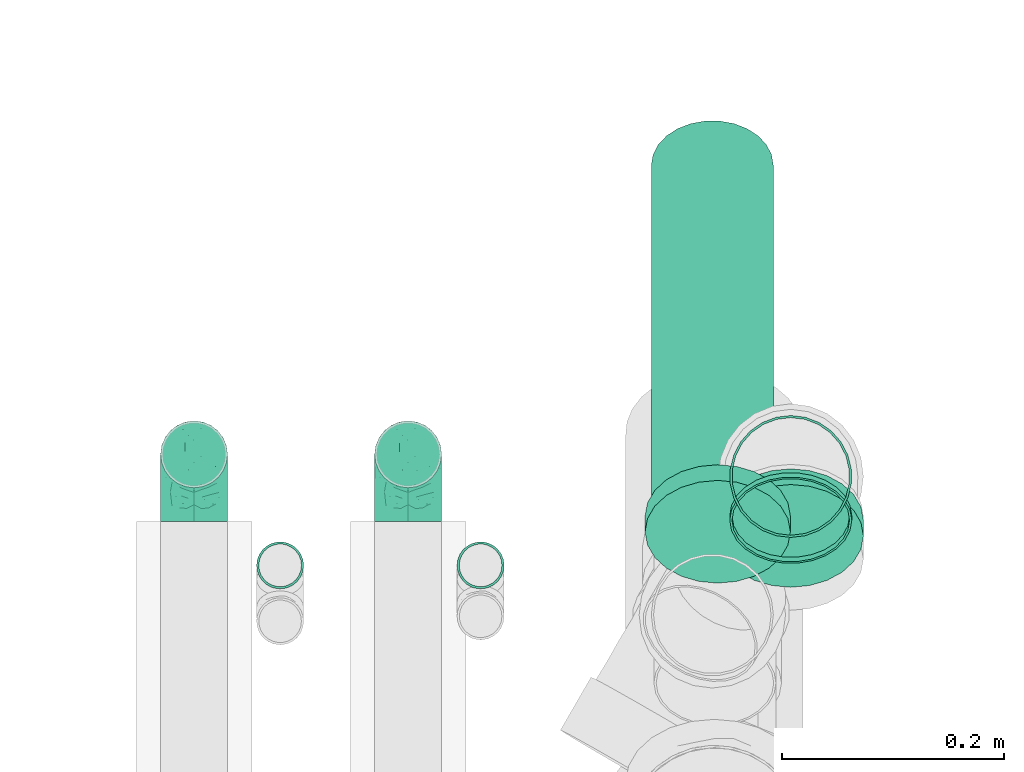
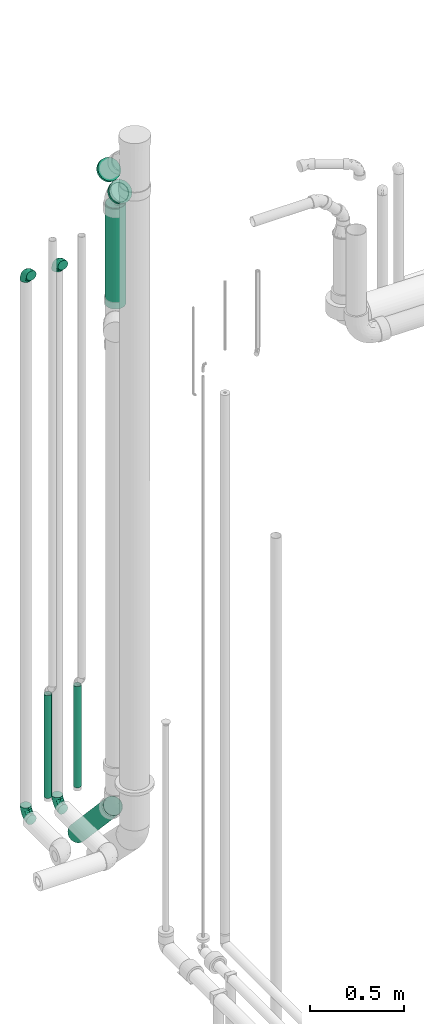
# One storey, part 29 of 78: 6 flow fittings, 5 flow segments.
"""IFC2X3 building model written with IfcOpenShell, lengths in millimetres."""

from ifc_helpers import new_model, entity, si_unit, converted_unit, derived_unit, direction, frame, origin_with_axes, origin_2d_with_axis, place, context, subcontext, project, spatial, hollow_circle, extrude, open_shell, surface_model, source, transform, mapped, type_object, element, save


model = new_model("IFC2X3")

# Units and contexts
model_context = context("Model", 3, precision=0.01, world=frame((0.0, 4.29681676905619e-09, 0.0)), true_north=direction((4.01073788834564e-13, 1.0)))
plan_context = context("Plan", 3, precision=0.01, world=frame((0.0, 4.29681676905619e-09, 0.0)), true_north=direction((4.01073788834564e-13, 1.0)))
body_context = subcontext(model_context, "Body", "Model", "MODEL_VIEW")
ifc_project = project(units=[converted_unit("PLANEANGLEUNIT", "DEGREE", entity("IfcPositiveLengthMeasure", 0.0174532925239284), si_unit("PLANEANGLEUNIT", "RADIAN"), dimensions=[0, 0, 0, 0, 0, 0, 0]), si_unit("AREAUNIT", "SQUARE_METRE"), si_unit("LENGTHUNIT", "METRE", prefix="MILLI"), si_unit("MASSUNIT", "GRAM", prefix="KILO"), si_unit("POWERUNIT", "WATT"), si_unit("PRESSUREUNIT", "PASCAL"), si_unit("FORCEUNIT", "NEWTON", prefix="KILO"), si_unit("ELECTRICVOLTAGEUNIT", "VOLT"), si_unit("ELECTRICCURRENTUNIT", "AMPERE"), si_unit("THERMODYNAMICTEMPERATUREUNIT", "DEGREE_CELSIUS"), si_unit("TIMEUNIT", "SECOND"), si_unit("VOLUMEUNIT", "CUBIC_METRE"), derived_unit("LINEARVELOCITYUNIT", [(si_unit("LENGTHUNIT", "METRE"), 1), (si_unit("TIMEUNIT", "SECOND"), -1)]), derived_unit("VOLUMETRICFLOWRATEUNIT", [(si_unit("VOLUMEUNIT", "CUBIC_METRE"), 1), (si_unit("TIMEUNIT", "SECOND"), -1)]), derived_unit("THERMALTRANSMITTANCEUNIT", [(si_unit("POWERUNIT", "WATT"), 1), (si_unit("THERMODYNAMICTEMPERATUREUNIT", "KELVIN"), -1), (si_unit("AREAUNIT", "SQUARE_METRE"), -1)]), derived_unit("SOUNDPRESSUREUNIT", [(si_unit("PRESSUREUNIT", "PASCAL"), 1)])], contexts=[model_context, plan_context])

# Site, building, storey
site_placement = place(None, frame((0.0, -4.29681676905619e-09, 0.0), z_axis=(0.0, 0.0, 1.0), x_axis=(1.0, 0.0, 0.0)))
site = spatial("IfcSite", under=ifc_project, at=site_placement, Name="ENGM", CompositionType="ELEMENT")
building_placement = place(site_placement, frame((0.0, 4.29681676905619e-09, 0.0), z_axis=(0.0, 0.0, 1.0), x_axis=(1.0, 0.0, 0.0)))
building = spatial("IfcBuilding", under=site, at=building_placement, Name="TH", CompositionType="ELEMENT")
storey_placement = place(building_placement, frame((0.0, 0.0, 205200.0), z_axis=(0.0, 0.0, 1.0), x_axis=(1.0, 0.0, 0.0)))
storey = spatial("IfcBuildingStorey", under=building, at=storey_placement, Name="Nivå D + 1,2 m", CompositionType="ELEMENT", Elevation=205200.0)

# Flow fittings
pipe_fitting_type_1 = type_object("IfcPipeFittingType", Name="magi_pipe_fe_elbow_short_001", PredefinedType="BEND")
shared_shape_1 = source(origin_with_axes(), body_context, "Body", "SurfaceModel", [
    surface_model("IfcShellBasedSurfaceModel", [(-60.4, 15.1, -26.15397), (-60.4, 7.81634, -29.17096), (-60.4, 0.0, -30.2), (-60.4, -21.35462, -21.35462), (-60.4, 26.15397, -15.1), (-60.4, 21.35462, -21.35462), (-60.4, 29.17096, -7.81634), (-60.4, -15.1, -26.15397), (-60.4, -7.81634, -29.17096), (-60.4, -26.15397, -15.1), (-60.4, -29.17096, -7.81634), (-60.4, -30.2, 0.0), (-60.4, -29.17096, 7.81634), (-60.4, 29.17096, 7.81634), (-60.4, -21.35462, 21.35462), (-60.4, 26.15397, 15.1), (-60.4, 21.35462, 21.35462), (-60.4, 7.81634, 29.17096), (-60.4, 15.1, 26.15397), (-60.4, -26.15397, 15.1), (-60.4, -7.81634, 29.17096), (-60.4, 0.0, 30.2), (-60.4, -15.1, 26.15397), (-60.4, 30.2, 0.0), (0.0, 60.4, -30.2), (-7.81634, 60.4, -29.17096), (-15.1, 60.4, -26.15397), (-26.15397, 60.4, -15.1), (-29.17096, 60.4, -7.81634), (-21.35462, 60.4, -21.35462), (29.17096, 60.4, -7.81634), (7.81634, 60.4, -29.17096), (21.35462, 60.4, -21.35462), (15.1, 60.4, -26.15397), (26.15397, 60.4, -15.1), (29.17096, 60.4, 7.81634), (30.2, 60.4, 0.0), (-29.17096, 60.4, 7.81634), (21.35462, 60.4, 21.35462), (-21.35462, 60.4, 21.35462), (-26.15397, 60.4, 15.1), (-15.1, 60.4, 26.15397), (-7.81634, 60.4, 29.17096), (26.15397, 60.4, 15.1), (15.1, 60.4, 26.15397), (0.0, 60.4, 30.2), (7.81634, 60.4, 29.17096), (-30.2, 60.4, 0.0), (-40.79975, -26.48639, 9.49143), (-44.2927, -23.46036, 16.95222), (-32.40306, -25.76572, 0.0), (-45.54716, -27.84754, 0.0), (-7.73382, -10.42985, 11.64553), (-2.102, -8.06735, 6.35117), (1.74449, -1.74448, 12.51332), (-46.13593, -4.00068, 29.68351), (-42.2898, 4.62925, 30.14853), (10.31662, 7.37496, 11.34434), (18.44156, 24.57514, 15.02148), (7.07276, 10.95732, 19.27498), (-30.06693, -0.27102, 29.27145), (-44.17726, -11.39441, 27.16031), (-23.4551, -7.13383, 25.24246), (-38.74025, -17.25266, 22.43475), (-27.059, -23.14697, 6.2131), (-19.77486, -19.33133, 0.0), (-10.95732, -7.07276, 19.27498), (-5.39458, 5.39458, 24.69106), (-29.52069, 48.20084, 13.12597), (-25.22813, 47.01796, 19.8404), (-11.27311, 52.093, 28.2877), (-4.13904, 45.17494, 30.12582), (-46.55352, 11.8443, 28.52822), (-7.88305, 20.22717, 29.65331), (-15.00576, 5.54025, 28.20072), (-3.0852, 16.31623, 27.75343), (-52.24998, 18.2886, 24.60768), (-10.49591, 29.69865, 30.14582), (-22.36958, 22.36958, 29.4662), (-17.98262, 13.19715, 30.04443), (-47.74519, 32.16745, 6.63994), (-48.21585, 29.51581, 13.12396), (-37.49729, 37.49729, 11.28901), (-47.20967, 25.1754, 19.81929), (17.25266, 38.74025, 22.43475), (-31.32046, 40.03273, 17.09289), (11.39441, 44.17725, 27.16031), (23.46036, 44.2927, 16.95222), (26.48639, 40.79975, 9.49143), (-7.14666, -12.89694, 0.0), (-14.66463, -16.61192, 7.82462), (4.00068, 46.13593, 29.68351), (-33.18602, 12.93608, 29.65955), (-29.63414, 7.40029, 30.18711), (19.33133, 19.77486, 0.0), (23.14697, 27.059, 6.2131), (16.61192, 14.66463, 7.82462), (27.84754, 45.54716, 0.0), (-32.10611, 20.49149, 27.93323), (-24.57514, -18.44156, 15.02148), (-21.89487, 39.03366, 25.38224), (-18.45005, 50.6405, 24.73297), (-31.78933, 48.71949, 6.47886), (-37.84917, 39.61073, 5.315), (13.91334, 24.32737, 20.46816), (7.13383, 23.4551, 25.24246), (-34.24603, 45.3, 0.0), (-27.95749, 31.89166, 24.81537), (-41.58677, 20.50028, 25.43151), (-0.46157, 0.46157, 17.84239), (-17.23338, 31.26213, 29.03145), (-24.05994, 29.23812, 27.47858), (-13.06094, 40.92174, 28.76128), (-31.83392, 33.72702, 21.39203), (-38.78737, 32.45032, 16.84022), (0.27102, 30.06693, 29.27145), (-24.21469, -13.23741, 21.05734), (8.23548, 2.19333, 6.02161), (25.76572, 32.40306, 0.0), (12.89694, 7.14666, 0.0), (-45.3, 34.24603, 0.0), (2.87514, -2.87514, 0.0), (-44.53432, 26.00869, -20.11577), (-48.18822, 29.5248, -13.12766), (-24.67192, -7.62159, -25.33714), (-26.22398, -0.37671, -28.72374), (-12.13397, -0.50536, -24.74577), (-47.80891, 3.81859, -30.10171), (-44.05719, -27.03585, -9.84546), (-37.94552, -22.39569, -16.35738), (-28.81663, -22.64668, -10.132), (-43.93799, 12.32789, -28.63778), (-33.27, 7.1392, -30.19348), (-26.0087, 44.53432, -20.11577), (-48.89164, 31.68872, -6.60822), (-18.95522, 47.41145, -24.9828), (-12.32789, 43.93799, -28.63778), (-38.42778, 38.42778, -7.21049), (18.04263, 43.69152, -22.80146), (10.42233, 38.24532, -26.85918), (11.90576, 51.00473, -27.48545), (-5.88381, -10.62327, -7.95335), (-5.9694, -7.83116, -13.76182), (3.24899, -2.56331, -7.96861), (-17.62229, 16.32998, -30.18286), (-28.62959, 17.86952, -29.30113), (-47.41145, 18.95522, -24.98279), (-50.84455, -24.04089, -17.54629), (-29.38053, 34.30665, -22.74674), (-27.91099, 27.91099, -26.51666), (-36.91219, 25.51094, -23.99233), (2.63361, -0.55507, -12.94367), (-43.69152, -18.04263, -22.80146), (22.39569, 37.94552, -16.35738), (27.03585, 44.05719, -9.84546), (22.64668, 28.81663, -10.132), (-51.00473, -11.90576, -27.48545), (3.80785, 44.49426, -29.64782), (-19.0921, -14.69952, -16.47487), (-22.5489, -12.31934, -21.1263), (-10.94772, -7.46239, -18.88204), (-32.95885, -13.78948, -23.71249), (-38.24532, -10.42233, -26.85918), (-44.49427, -3.80785, -29.64782), (-22.6301, 37.15314, -25.58239), (-31.68872, 48.89164, -6.60822), (-3.8186, 47.80891, -30.10171), (-10.66133, 10.66133, -28.51691), (0.37671, 26.22398, -28.72374), (1.27136, 14.18619, -25.18541), (-29.5248, 48.18821, -13.12766), (-36.27113, 36.27113, -14.88553), (24.04089, 50.84455, -17.54629), (17.50188, 24.2636, -16.21902), (9.73525, 11.44907, -16.75087), (12.31934, 22.5489, -21.1263), (6.24176, 25.78208, -26.38266), (-7.1392, 33.27, -30.19348), (-36.7166, 19.4356, -27.21946), (-18.00754, 29.38864, -29.15505), (-0.28629, 0.28629, -17.49884), (-13.98848, -16.88492, -5.19509), (15.48569, 15.00432, -11.24742), (16.88492, 13.98848, -5.19509), (3.55782, 9.20508, -21.18402), (-15.00432, -15.48569, -11.24742)], [open_shell([[[0, 1, 2]], [[0, 2, 3]], [[4, 0, 3]], [[5, 0, 4]], [[6, 4, 3]], [[7, 3, 8]], [[3, 2, 8]], [[9, 10, 3]], [[3, 10, 6]], [[11, 12, 10]], [[13, 6, 10]], [[13, 10, 14]], [[15, 13, 16]], [[17, 18, 16]], [[13, 17, 16]], [[17, 13, 14]], [[19, 14, 12]], [[12, 14, 10]], [[20, 21, 22]], [[17, 14, 22]], [[17, 22, 21]], [[13, 23, 6]], [[24, 25, 26]], [[24, 26, 27]], [[27, 28, 24]], [[27, 26, 29]], [[24, 28, 30]], [[31, 32, 33]], [[31, 24, 32]], [[32, 30, 34]], [[24, 30, 32]], [[30, 35, 36]], [[30, 28, 37]], [[38, 30, 37]], [[39, 37, 40]], [[39, 41, 42]], [[39, 42, 37]], [[38, 37, 42]], [[35, 38, 43]], [[30, 38, 35]], [[44, 45, 46]], [[44, 38, 42]], [[45, 44, 42]], [[28, 47, 37]], [[48, 49, 19]], [[50, 48, 51]], [[52, 53, 54]], [[12, 48, 19]], [[12, 51, 48]], [[21, 55, 56]], [[19, 49, 14]], [[57, 58, 59]], [[60, 61, 62]], [[63, 22, 14]], [[63, 61, 22]], [[64, 50, 65]], [[62, 66, 67]], [[40, 68, 69]], [[42, 70, 71]], [[17, 72, 18]], [[73, 74, 75]], [[18, 76, 16]], [[20, 55, 21]], [[77, 78, 79]], [[80, 81, 82]], [[15, 83, 81]], [[84, 38, 44]], [[23, 13, 80]], [[13, 15, 81]], [[68, 85, 69]], [[83, 15, 16]], [[21, 56, 17]], [[44, 86, 84]], [[16, 76, 83]], [[87, 58, 88]], [[40, 37, 68]], [[89, 90, 65]], [[45, 91, 46]], [[65, 90, 64]], [[45, 42, 71]], [[92, 93, 79]], [[88, 35, 43]], [[43, 38, 87]], [[87, 88, 43]], [[94, 95, 96]], [[88, 97, 35]], [[98, 72, 92]], [[49, 99, 63]], [[69, 100, 101]], [[82, 102, 103]], [[104, 105, 59]], [[106, 102, 47]], [[98, 107, 108]], [[102, 82, 68]], [[86, 44, 46]], [[69, 39, 40]], [[109, 54, 57]], [[110, 100, 111]], [[22, 61, 20]], [[101, 41, 39]], [[70, 42, 41]], [[112, 77, 71]], [[84, 86, 105]], [[96, 95, 58]], [[100, 69, 113]], [[72, 17, 56]], [[108, 113, 83]], [[81, 114, 82]], [[112, 110, 77]], [[91, 71, 115]], [[62, 61, 63]], [[55, 61, 60]], [[116, 99, 66]], [[74, 62, 67]], [[91, 86, 46]], [[105, 86, 115]], [[75, 105, 115]], [[109, 67, 66]], [[59, 105, 67]], [[48, 64, 99]], [[99, 49, 48]], [[63, 14, 49]], [[38, 84, 87]], [[58, 87, 84]], [[92, 72, 56]], [[76, 72, 108]], [[102, 68, 37]], [[82, 114, 85]], [[98, 111, 107]], [[112, 70, 101]], [[114, 83, 113]], [[82, 103, 80]], [[92, 79, 78]], [[115, 71, 77]], [[74, 79, 60]], [[77, 79, 73]], [[71, 91, 45]], [[86, 91, 115]], [[61, 55, 20]], [[56, 55, 60]], [[57, 54, 117]], [[104, 59, 58]], [[116, 66, 62]], [[52, 99, 90]], [[12, 11, 51]], [[97, 88, 118]], [[97, 36, 35]], [[53, 90, 89]], [[90, 53, 52]], [[94, 96, 119]], [[88, 95, 118]], [[117, 54, 53]], [[92, 56, 93]], [[98, 92, 78]], [[111, 98, 78]], [[72, 98, 108]], [[110, 111, 78]], [[107, 111, 100]], [[47, 102, 37]], [[102, 106, 103]], [[106, 120, 103]], [[103, 120, 80]], [[23, 80, 120]], [[13, 81, 80]], [[56, 60, 93]], [[60, 79, 93]], [[117, 121, 119]], [[121, 117, 53]], [[53, 89, 121]], [[119, 96, 117]], [[117, 96, 57]], [[77, 110, 78]], [[100, 110, 112]], [[83, 114, 81]], [[85, 114, 113]], [[69, 85, 113]], [[82, 85, 68]], [[109, 52, 54]], [[99, 52, 66]], [[69, 101, 39]], [[112, 101, 100]], [[100, 113, 107]], [[108, 107, 113]], [[62, 74, 60]], [[75, 74, 67]], [[105, 75, 67]], [[73, 75, 115]], [[77, 73, 115]], [[74, 73, 79]], [[99, 64, 90]], [[50, 64, 48]], [[118, 95, 94]], [[58, 95, 88]], [[58, 57, 96]], [[109, 57, 59]], [[72, 76, 18]], [[83, 76, 108]], [[101, 70, 41]], [[71, 70, 112]], [[58, 84, 104]], [[105, 104, 84]], [[67, 109, 59]], [[52, 109, 66]], [[62, 63, 116]], [[99, 116, 63]], [[122, 4, 123]], [[124, 125, 126]], [[2, 1, 127]], [[128, 129, 130]], [[127, 131, 132]], [[27, 29, 133]], [[120, 134, 23]], [[135, 26, 136]], [[123, 134, 137]], [[138, 139, 140]], [[122, 5, 4]], [[141, 142, 143]], [[144, 132, 145]], [[131, 0, 146]], [[128, 9, 147]], [[148, 149, 150]], [[128, 51, 10]], [[142, 151, 143]], [[152, 3, 7]], [[153, 154, 155]], [[156, 152, 7]], [[31, 157, 24]], [[158, 159, 160]], [[147, 9, 3]], [[129, 152, 161]], [[156, 7, 8]], [[162, 163, 125]], [[154, 34, 30]], [[120, 106, 137]], [[149, 148, 164]], [[47, 28, 165]], [[163, 8, 2]], [[4, 6, 123]], [[25, 166, 136]], [[167, 168, 169]], [[170, 133, 171]], [[25, 24, 166]], [[33, 32, 138]], [[157, 31, 140]], [[28, 27, 170]], [[32, 34, 172]], [[26, 135, 29]], [[132, 131, 145]], [[31, 33, 140]], [[173, 174, 175]], [[169, 168, 176]], [[25, 136, 26]], [[175, 138, 173]], [[168, 177, 157]], [[163, 162, 156]], [[153, 172, 154]], [[9, 128, 10]], [[154, 97, 118]], [[131, 178, 145]], [[0, 5, 146]], [[175, 139, 138]], [[155, 118, 94]], [[131, 1, 0]], [[146, 178, 131]], [[170, 137, 165]], [[149, 179, 145]], [[171, 133, 148]], [[160, 180, 142]], [[65, 181, 89]], [[170, 165, 28]], [[137, 171, 123]], [[172, 138, 32]], [[138, 153, 173]], [[168, 157, 139]], [[166, 157, 177]], [[176, 175, 169]], [[168, 167, 144]], [[154, 30, 97]], [[155, 182, 173]], [[162, 124, 161]], [[147, 152, 129]], [[127, 163, 2]], [[132, 144, 125]], [[132, 125, 163]], [[125, 167, 126]], [[129, 158, 130]], [[30, 36, 97]], [[143, 182, 183]], [[169, 126, 167]], [[5, 122, 146]], [[178, 150, 149]], [[136, 179, 164]], [[133, 29, 135]], [[123, 6, 134]], [[122, 123, 171]], [[133, 170, 27]], [[137, 170, 171]], [[184, 175, 174]], [[180, 160, 126]], [[126, 169, 184]], [[126, 159, 124]], [[51, 128, 50]], [[51, 11, 10]], [[131, 127, 1]], [[163, 127, 132]], [[157, 166, 24]], [[136, 166, 177]], [[164, 179, 149]], [[144, 167, 125]], [[179, 144, 145]], [[168, 144, 177]], [[136, 177, 179]], [[144, 179, 177]], [[141, 121, 89]], [[89, 181, 141]], [[154, 118, 155]], [[183, 155, 94]], [[143, 183, 119]], [[119, 183, 94]], [[155, 183, 182]], [[181, 130, 185]], [[50, 128, 130]], [[130, 181, 65]], [[50, 130, 65]], [[141, 181, 185]], [[142, 141, 185]], [[143, 121, 141]], [[158, 160, 142]], [[142, 180, 151]], [[158, 142, 185]], [[126, 160, 159]], [[130, 158, 185]], [[129, 159, 158]], [[23, 134, 6]], [[120, 137, 134]], [[137, 106, 165]], [[47, 165, 106]], [[174, 151, 180]], [[182, 143, 151]], [[150, 146, 122]], [[149, 145, 178]], [[146, 150, 178]], [[122, 171, 148]], [[148, 150, 122]], [[164, 133, 135]], [[133, 164, 148]], [[164, 135, 136]], [[138, 140, 33]], [[157, 140, 139]], [[154, 172, 34]], [[138, 172, 153]], [[163, 156, 8]], [[152, 156, 162]], [[152, 147, 3]], [[128, 147, 129]], [[155, 173, 153]], [[174, 173, 182]], [[151, 174, 182]], [[174, 180, 184]], [[126, 184, 180]], [[175, 184, 169]], [[168, 139, 176]], [[175, 176, 139]], [[161, 124, 159]], [[125, 124, 162]], [[129, 161, 159]], [[162, 161, 152]], [[143, 119, 121]]])]),
])
for number, where, z_axis, x_axis, name in (
    (1, (895369.84063, 480167.90014, 7921.0), (1.0, 0.0, 0.0), (0.0, 0.0, 1.0), "magi_pipe_fe_elbow_short_001"),
    (2, (895562.81931, 480167.90014, 7921.0), (1.0, 0.0, 0.0), (0.0, 0.0, 1.0), "magi_pipe_fe_elbow_short_001"),
    (3, (895369.84063, 480167.90014, 4400.0), (-1.0, 0.0, 0.0), (0.0, 3.999999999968e-06, -0.999999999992), "magi_pipe_fe_elbow_short_001"),
    (4, (895562.81931, 480167.90014, 4400.0), (-1.0, 0.0, 0.0), (0.0, 3.999999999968e-06, -0.999999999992), "magi_pipe_fe_elbow_short_001"),
):
    element("IfcFlowFitting", number, at=place(storey_placement, frame(where, z_axis=z_axis, x_axis=x_axis)), inside=storey, type_object=pipe_fitting_type_1, Name=name, context=body_context, shape_type="MappedRepresentation", body=[
        mapped(shared_shape_1, transform((0.0, 0.0, 0.0), scale=1.0)),
    ])
pipe_fitting_type_2 = type_object("IfcPipeFittingType", Name="magi_sewer_endcap_001", PredefinedType="OBSTRUCTION")
shared_shape_2 = source(origin_with_axes(), body_context, "Body", "SurfaceModel", [
    surface_model("IfcShellBasedSurfaceModel", [(20.0, 16.95265, -63.26814), (20.0, 32.75, -56.72466), (20.0, 46.3155, -46.3155), (20.0, 63.26814, -16.95265), (20.0, -56.72466, -32.75), (20.0, 56.72466, -32.75), (20.0, 65.5, 0.0), (20.0, -16.95265, -63.26814), (20.0, 0.0, -65.5), (20.0, -32.75, -56.72466), (20.0, -46.3155, -46.3155), (20.0, -63.26814, -16.95265), (20.0, 63.26814, 16.95265), (20.0, 56.72466, 32.75), (20.0, 46.3155, 46.3155), (20.0, -63.26814, 16.95265), (20.0, 16.95265, 63.26814), (20.0, 0.0, 65.5), (20.0, 32.75, 56.72466), (20.0, -46.3155, 46.3155), (20.0, -56.72466, 32.75), (20.0, -65.5, 0.0), (20.0, -16.95265, 63.26814), (20.0, -32.75, 56.72466), (0.0, 16.95265, 63.26814), (0.0, -16.95265, 63.26814), (0.0, 0.0, 65.5), (0.0, 46.3155, 46.3155), (0.0, 32.75, 56.72466), (0.0, 56.72466, 32.75), (0.0, 63.26814, 16.95265), (0.0, -46.3155, 46.3155), (0.0, -32.75, 56.72466), (0.0, -63.26814, 16.95265), (0.0, -56.72466, 32.75), (0.0, -63.26814, -16.95265), (0.0, -65.5, 0.0), (0.0, 63.26814, -16.95265), (0.0, -32.75, -56.72466), (0.0, 65.5, 0.0), (0.0, 16.95265, -63.26814), (0.0, 56.72466, -32.75), (0.0, 46.3155, -46.3155), (0.0, 32.75, -56.72466), (0.0, 0.0, -65.5), (0.0, -46.3155, -46.3155), (0.0, -56.72466, -32.75), (0.0, -16.95265, -63.26814)], [open_shell([[[0, 1, 2]], [[0, 2, 3]], [[0, 3, 4]], [[3, 2, 5]], [[4, 3, 6]], [[0, 7, 8]], [[0, 9, 7]], [[10, 9, 0]], [[0, 4, 10]], [[6, 11, 4]], [[6, 12, 11]], [[12, 13, 14]], [[11, 14, 15]], [[16, 17, 14]], [[16, 14, 18]], [[15, 14, 17]], [[15, 19, 20]], [[21, 11, 15]], [[19, 22, 23]], [[22, 19, 15]], [[17, 22, 15]], [[11, 12, 14]], [[24, 25, 26]], [[27, 24, 28]], [[27, 29, 30]], [[24, 27, 25]], [[30, 25, 27]], [[25, 31, 32]], [[31, 25, 33]], [[31, 33, 34]], [[25, 30, 33]], [[33, 35, 36]], [[33, 30, 35]], [[37, 38, 39]], [[40, 37, 41]], [[42, 43, 40]], [[42, 40, 41]], [[44, 37, 40]], [[39, 45, 46]], [[46, 35, 39]], [[38, 44, 47]], [[38, 45, 39]], [[38, 37, 44]], [[39, 35, 30]], [[35, 11, 36]], [[46, 4, 35]], [[9, 45, 38]], [[46, 45, 10]], [[7, 38, 47]], [[35, 4, 11]], [[11, 21, 36]], [[7, 9, 38]], [[10, 45, 9]], [[10, 4, 46]], [[8, 7, 47]], [[47, 44, 8]], [[40, 0, 44]], [[43, 1, 40]], [[5, 42, 41]], [[43, 42, 2]], [[3, 41, 37]], [[43, 2, 1]], [[1, 0, 40]], [[6, 3, 37]], [[5, 41, 3]], [[5, 2, 42]], [[39, 6, 37]], [[44, 0, 8]], [[30, 12, 39]], [[29, 13, 30]], [[18, 27, 28]], [[29, 27, 14]], [[16, 28, 24]], [[30, 13, 12]], [[12, 6, 39]], [[16, 18, 28]], [[14, 27, 18]], [[14, 13, 29]], [[17, 16, 24]], [[24, 26, 17]], [[25, 22, 26]], [[32, 23, 25]], [[20, 31, 34]], [[32, 31, 19]], [[15, 34, 33]], [[32, 19, 23]], [[23, 22, 25]], [[21, 15, 33]], [[20, 34, 15]], [[20, 19, 31]], [[36, 21, 33]], [[26, 22, 17]]])]),
])
for number, where, z_axis, x_axis, name in (
    (5, (895841.9078, 480098.12319, 8450.01579), (0.0, 0.707106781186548, 0.707106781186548), (0.0, 0.707106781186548, -0.707106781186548), "magi_sewer_endcap_001"),
    (6, (895907.76271, 480108.55518, 8271.04827), (0.0, 0.707106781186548, 0.707106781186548), (0.0, -0.707106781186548, 0.707106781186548), "magi_sewer_endcap_001"),
):
    element("IfcFlowFitting", number, at=place(storey_placement, frame(where, z_axis=z_axis, x_axis=x_axis)), inside=storey, type_object=pipe_fitting_type_2, Name=name, context=body_context, shape_type="MappedRepresentation", body=[
        mapped(shared_shape_2, transform((0.0, 0.0, 0.0), scale=1.0)),
    ])

# Flow segments
pipe_segment_type_1 = type_object("IfcPipeSegmentType", Name="MA", PredefinedType="RIGIDSEGMENT")
shared_shape_3 = source(origin_with_axes(), body_context, "Body", "SweptSolid", [
    extrude(hollow_circle(Radius=55.0, WallThickness=2.0, at=origin_2d_with_axis()), frame((0.0, 0.0, 0.0), z_axis=(1.0, 0.0, 0.0), x_axis=(0.0, 1.0, 0.0)), (0.0, 0.0, 1.0), 652.4),
])
flow_segment_1_placement = place(storey_placement, frame((895907.76271, 480148.00219, 7529.07392), z_axis=(1.0, 0.0, 0.0), x_axis=(0.0, 0.0, 1.0)))
element("IfcFlowSegment", 7, at=flow_segment_1_placement, inside=storey, type_object=pipe_segment_type_1, Name="MA", context=body_context, shape_type="MappedRepresentation", body=[
    mapped(shared_shape_3, transform((0.0, 0.0, 0.0), scale=1.0)),
])
shared_shape_4 = source(origin_with_axes(), body_context, "Body", "SweptSolid", [
    extrude(hollow_circle(Radius=55.0, WallThickness=2.0, at=origin_2d_with_axis()), frame((0.0, 0.0, 0.0), z_axis=(1.0, 0.0, 0.0), x_axis=(0.0, 1.0, 0.0)), (0.0, 0.0, 1.0), 5.7),
])
flow_segment_2_placement = place(storey_placement, frame((895907.76271, 480112.56211, 8267.04135000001), z_axis=(0.0, 0.707106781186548, 0.707106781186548), x_axis=(0.0, -0.707106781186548, 0.707106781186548)))
element("IfcFlowSegment", 8, at=flow_segment_2_placement, inside=storey, type_object=pipe_segment_type_1, Name="MA", context=body_context, shape_type="MappedRepresentation", body=[
    mapped(shared_shape_4, transform((0.0, 0.0, 0.0), scale=1.0)),
])
pipe_segment_type_2 = type_object("IfcPipeSegmentType", Name="Stålrør normaltykke", PredefinedType="RIGIDSEGMENT")
shared_shape_5 = source(origin_with_axes(), body_context, "Body", "SweptSolid", [
    extrude(hollow_circle(Radius=21.2, WallThickness=2.0, at=origin_2d_with_axis()), frame((0.0, 0.0, 0.0), z_axis=(1.0, 0.0, 0.0), x_axis=(0.0, 1.0, 0.0)), (0.0, 0.0, 1.0), 664.9),
])
flow_segment_3_placement = place(storey_placement, frame((895447.40675, 480067.85063, 4549.89999999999), z_axis=(0.0, -1.0, 0.0), x_axis=(0.0, 0.0, 1.0)))
element("IfcFlowSegment", 9, at=flow_segment_3_placement, inside=storey, type_object=pipe_segment_type_2, Name="Stålrør normaltykke", context=body_context, shape_type="MappedRepresentation", body=[
    mapped(shared_shape_5, transform((0.0, 0.0, 0.0), scale=1.0)),
])
shared_shape_6 = source(origin_with_axes(), body_context, "Body", "SweptSolid", [
    extrude(hollow_circle(Radius=21.2, WallThickness=2.0, at=origin_2d_with_axis()), frame((0.0, 0.0, 0.0), z_axis=(1.0, 0.0, 0.0), x_axis=(0.0, 1.0, 0.0)), (0.0, 0.0, 1.0), 654.9),
])
flow_segment_4_placement = place(storey_placement, frame((895628.1602, 480067.85063, 4554.89999999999), z_axis=(0.0, 1.0, 0.0), x_axis=(0.0, 0.0, 1.0)))
element("IfcFlowSegment", 10, at=flow_segment_4_placement, inside=storey, type_object=pipe_segment_type_2, Name="Stålrør normaltykke", context=body_context, shape_type="MappedRepresentation", body=[
    mapped(shared_shape_6, transform((0.0, 0.0, 0.0), scale=1.0)),
])
shared_shape_7 = source(origin_with_axes(), body_context, "Body", "SweptSolid", [
    extrude(hollow_circle(Radius=55.0, WallThickness=2.0, at=origin_2d_with_axis()), frame((0.0, 0.0, 0.0), z_axis=(1.0, 0.0, 0.0), x_axis=(0.0, 1.0, 0.0)), (0.0, 0.0, 1.0), 550.8),
])
flow_segment_5_placement = place(storey_placement, frame((895837.03993, 480052.82373, 4360.36822999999), z_axis=(0.0, 0.731354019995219, 0.681998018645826), x_axis=(0.0, 0.681998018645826, -0.731354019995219)))
element("IfcFlowSegment", 11, at=flow_segment_5_placement, inside=storey, type_object=pipe_segment_type_1, Name="MA", context=body_context, shape_type="MappedRepresentation", body=[
    mapped(shared_shape_7, transform((0.0, 0.0, 0.0), scale=1.0)),
])

save(model, "model.ifc")
